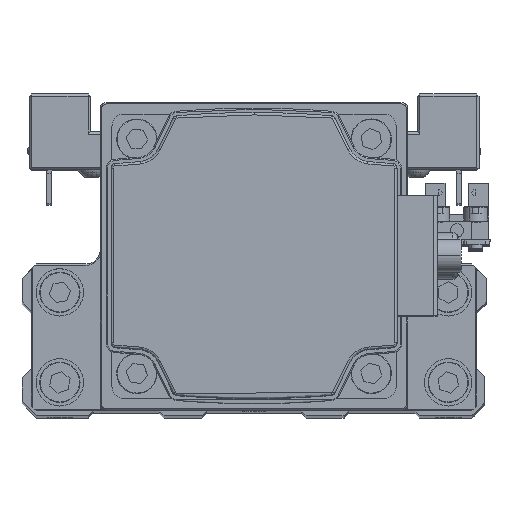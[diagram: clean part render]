
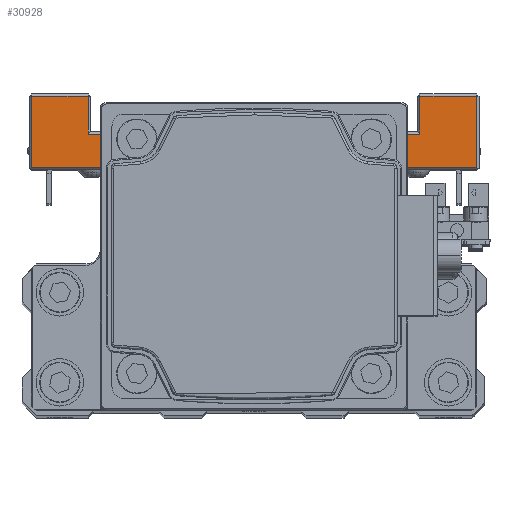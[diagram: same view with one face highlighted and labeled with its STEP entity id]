
A CAD part, top view. The second image highlights one B-rep face of the part: STEP entity #30928.
In plain terms, the highlighted planar face has unit normal (0, 0, 1) as drawn and (1, 0, 0) by its records, which use the part's own axes.
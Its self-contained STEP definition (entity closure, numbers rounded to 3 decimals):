
#102 = ORIENTED_EDGE ( 'NONE', *, *, #27559, .T. ) ;
#536 = EDGE_CURVE ( 'NONE', #26074, #32682, #16188, .T. ) ;
#722 = ORIENTED_EDGE ( 'NONE', *, *, #33048, .F. ) ;
#1075 = DIRECTION ( 'NONE',  ( 0., -1., 0. ) ) ;
#1813 = CARTESIAN_POINT ( 'NONE',  ( 47., 23., 47. ) ) ;
#1930 = ORIENTED_EDGE ( 'NONE', *, *, #1991, .T. ) ;
#1991 = EDGE_CURVE ( 'NONE', #11522, #19975, #26637, .T. ) ;
#2106 = DIRECTION ( 'NONE',  ( 0., 0., 1. ) ) ;
#2168 = LINE ( 'NONE', #14284, #21123 ) ;
#2577 = DIRECTION ( 'NONE',  ( 0., -1., 0. ) ) ;
#2630 = CARTESIAN_POINT ( 'NONE',  ( 47., 23., -35. ) ) ;
#2766 = LINE ( 'NONE', #14894, #27257 ) ;
#2835 = VECTOR ( 'NONE', #33422, 1000. ) ;
#2917 = EDGE_CURVE ( 'NONE', #5529, #6791, #17655, .T. ) ;
#3561 = EDGE_CURVE ( 'NONE', #32682, #11645, #9264, .T. ) ;
#3595 = VECTOR ( 'NONE', #2577, 1000. ) ;
#5066 = PLANE ( 'NONE',  #35683 ) ;
#5529 = VERTEX_POINT ( 'NONE', #2630 ) ;
#5598 = CARTESIAN_POINT ( 'NONE',  ( 47., -7.5, -20. ) ) ;
#5614 = CARTESIAN_POINT ( 'NONE',  ( 47., 8., -20. ) ) ;
#6789 = CARTESIAN_POINT ( 'NONE',  ( 47., 7.5, -47. ) ) ;
#6791 = VERTEX_POINT ( 'NONE', #36137 ) ;
#8038 = VERTEX_POINT ( 'NONE', #13170 ) ;
#8218 = VERTEX_POINT ( 'NONE', #38519 ) ;
#9264 = LINE ( 'NONE', #21337, #2835 ) ;
#9324 = DIRECTION ( 'NONE',  ( 0., 1., 0. ) ) ;
#9749 = EDGE_CURVE ( 'NONE', #8038, #38756, #33946, .T. ) ;
#9986 = LINE ( 'NONE', #22062, #25319 ) ;
#11219 = EDGE_LOOP ( 'NONE', ( #722, #32888, #19581, #25839, #31651, #30451, #102, #22715, #1930, #20295, #13358, #24382 ) ) ;
#11515 = CARTESIAN_POINT ( 'NONE',  ( 47., -7.5, 20. ) ) ;
#11522 = VERTEX_POINT ( 'NONE', #1813 ) ;
#11611 = DIRECTION ( 'NONE',  ( 0., -1., 0. ) ) ;
#11645 = VERTEX_POINT ( 'NONE', #5598 ) ;
#11818 = CARTESIAN_POINT ( 'NONE',  ( 47., 7.5, -20. ) ) ;
#13170 = CARTESIAN_POINT ( 'NONE',  ( 47., 8., -47. ) ) ;
#13358 = ORIENTED_EDGE ( 'NONE', *, *, #536, .T. ) ;
#13828 = EDGE_CURVE ( 'NONE', #38756, #5529, #9986, .T. ) ;
#14062 = LINE ( 'NONE', #26127, #37660 ) ;
#14284 = CARTESIAN_POINT ( 'NONE',  ( 47., 8., -47. ) ) ;
#14357 = LINE ( 'NONE', #26405, #31447 ) ;
#14894 = CARTESIAN_POINT ( 'NONE',  ( 47., 15., -20. ) ) ;
#16088 = CARTESIAN_POINT ( 'NONE',  ( 47., 8., 47. ) ) ;
#16188 = LINE ( 'NONE', #28245, #36489 ) ;
#17186 = CARTESIAN_POINT ( 'NONE',  ( 47., 7.5, -20. ) ) ;
#17655 = LINE ( 'NONE', #29731, #3595 ) ;
#18883 = DIRECTION ( 'NONE',  ( 0., 1., 0. ) ) ;
#19581 = ORIENTED_EDGE ( 'NONE', *, *, #9749, .T. ) ;
#19975 = VERTEX_POINT ( 'NONE', #16088 ) ;
#20151 = EDGE_CURVE ( 'NONE', #32325, #8038, #2168, .T. ) ;
#20295 = ORIENTED_EDGE ( 'NONE', *, *, #33373, .T. ) ;
#20367 = VECTOR ( 'NONE', #9324, 1000. ) ;
#21123 = VECTOR ( 'NONE', #26333, 1000. ) ;
#21337 = CARTESIAN_POINT ( 'NONE',  ( 47., -7.5, -20. ) ) ;
#21380 = VECTOR ( 'NONE', #18883, 1000. ) ;
#21433 = EDGE_CURVE ( 'NONE', #6791, #8218, #2766, .T. ) ;
#21933 = CARTESIAN_POINT ( 'NONE',  ( 47., 23., -47. ) ) ;
#22062 = CARTESIAN_POINT ( 'NONE',  ( 47., 23., -20. ) ) ;
#22560 = VECTOR ( 'NONE', #23900, 1000. ) ;
#22715 = ORIENTED_EDGE ( 'NONE', *, *, #25303, .T. ) ;
#23900 = DIRECTION ( 'NONE',  ( 0., -1., 0. ) ) ;
#24382 = ORIENTED_EDGE ( 'NONE', *, *, #3561, .T. ) ;
#24385 = LINE ( 'NONE', #36472, #20367 ) ;
#25303 = EDGE_CURVE ( 'NONE', #28863, #11522, #14062, .T. ) ;
#25319 = VECTOR ( 'NONE', #34160, 1000. ) ;
#25839 = ORIENTED_EDGE ( 'NONE', *, *, #13828, .T. ) ;
#26074 = VERTEX_POINT ( 'NONE', #34924 ) ;
#26127 = CARTESIAN_POINT ( 'NONE',  ( 47., 23., -20. ) ) ;
#26333 = DIRECTION ( 'NONE',  ( 0., 0., -1. ) ) ;
#26405 = CARTESIAN_POINT ( 'NONE',  ( 47., 8., 20. ) ) ;
#26637 = LINE ( 'NONE', #38752, #29595 ) ;
#26925 = DIRECTION ( 'NONE',  ( 0., 0., 1. ) ) ;
#27257 = VECTOR ( 'NONE', #26925, 1000. ) ;
#27559 = EDGE_CURVE ( 'NONE', #8218, #28863, #24385, .T. ) ;
#28245 = CARTESIAN_POINT ( 'NONE',  ( 47., 7.5, 20. ) ) ;
#28863 = VERTEX_POINT ( 'NONE', #38870 ) ;
#29265 = DIRECTION ( 'NONE',  ( -1., 0., 0. ) ) ;
#29595 = VECTOR ( 'NONE', #11611, 1000. ) ;
#29731 = CARTESIAN_POINT ( 'NONE',  ( 47., 7.5, -35. ) ) ;
#30451 = ORIENTED_EDGE ( 'NONE', *, *, #21433, .T. ) ;
#30928 = ADVANCED_FACE ( 'NONE', ( #32224 ), #5066, .F. ) ;
#31447 = VECTOR ( 'NONE', #38513, 1000. ) ;
#31651 = ORIENTED_EDGE ( 'NONE', *, *, #2917, .T. ) ;
#32224 = FACE_OUTER_BOUND ( 'NONE', #11219, .T. ) ;
#32325 = VERTEX_POINT ( 'NONE', #5614 ) ;
#32682 = VERTEX_POINT ( 'NONE', #11515 ) ;
#32888 = ORIENTED_EDGE ( 'NONE', *, *, #20151, .T. ) ;
#33048 = EDGE_CURVE ( 'NONE', #32325, #11645, #38968, .T. ) ;
#33373 = EDGE_CURVE ( 'NONE', #19975, #26074, #14357, .T. ) ;
#33422 = DIRECTION ( 'NONE',  ( 0., 0., -1. ) ) ;
#33946 = LINE ( 'NONE', #6789, #21380 ) ;
#34160 = DIRECTION ( 'NONE',  ( 0., 0., 1. ) ) ;
#34924 = CARTESIAN_POINT ( 'NONE',  ( 47., 8., 20. ) ) ;
#35683 = AXIS2_PLACEMENT_3D ( 'NONE', #17186, #29265, #2106 ) ;
#36137 = CARTESIAN_POINT ( 'NONE',  ( 47., 15., -35. ) ) ;
#36472 = CARTESIAN_POINT ( 'NONE',  ( 47., 7.5, 35. ) ) ;
#36489 = VECTOR ( 'NONE', #1075, 1000. ) ;
#37660 = VECTOR ( 'NONE', #38237, 1000. ) ;
#38237 = DIRECTION ( 'NONE',  ( 0., 0., 1. ) ) ;
#38513 = DIRECTION ( 'NONE',  ( 0., 0., -1. ) ) ;
#38519 = CARTESIAN_POINT ( 'NONE',  ( 47., 15., 35. ) ) ;
#38752 = CARTESIAN_POINT ( 'NONE',  ( 47., 7.5, 47. ) ) ;
#38756 = VERTEX_POINT ( 'NONE', #21933 ) ;
#38870 = CARTESIAN_POINT ( 'NONE',  ( 47., 23., 35. ) ) ;
#38968 = LINE ( 'NONE', #11818, #22560 ) ;
